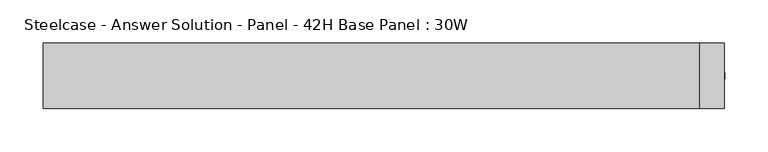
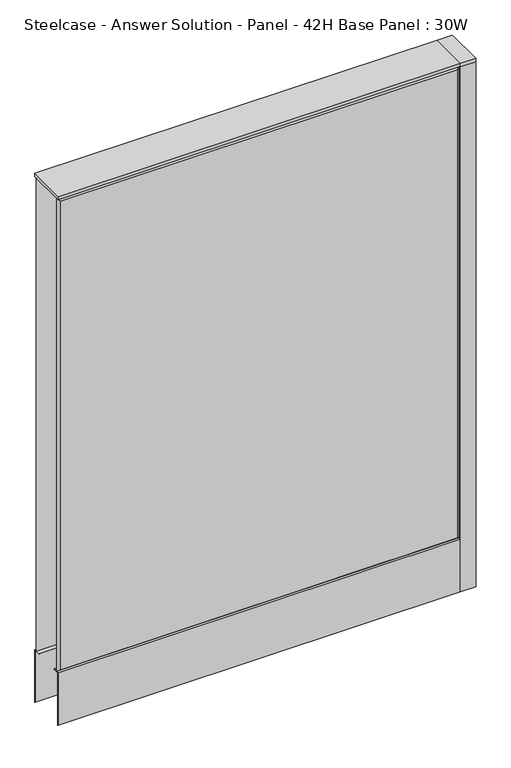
"""IFC4 building model written with IfcOpenShell, lengths in millimetres: furniture geometry, Steelcase - Answer Solution - Panel - 42H Base Panel : 30W."""

from ifc_helpers import new_model, si_unit, point, frame, frame_2d, origin, place, context, project, spatial, polyline, circle_curve, trimmed, segment, composite_curve, outline, extrude, faceted_brep, source, transform, mapped, element, save


def steelcase_answer_solution_panel_42h_base_panel_30w_dea454dc(model_context):
    return source(origin(), model_context, "Body", "SolidModel", [
        extrude(outline(composite_curve([segment(trimmed(circle_curve(frame_2d((395.224, 0.0039657)), 5.08), [point((400.304, 0.0039657))], [point((390.144, 0.0039657))], False, "CARTESIAN"), True, "CONTINUOUS"), segment(trimmed(circle_curve(frame_2d((395.224, 0.0039657)), 5.08), [point((390.144, 0.0039657))], [point((400.304, 0.0039657))], False, "CARTESIAN"), True, "CONTINUOUS")], self_intersect=False)), frame((0.0, 0.0, 5.0799671), z_axis=(0.0, 0.0, 1.0), x_axis=(1.0, 0.0, 0.0)), (0.0, 0.0, 1.0), 10.414),
        extrude(outline(composite_curve([segment(trimmed(circle_curve(frame_2d((395.224, 0.0039657)), 15.24), [point((410.464, 0.0039657))], [point((379.984, 0.0039657))], False, "CARTESIAN"), True, "CONTINUOUS"), segment(trimmed(circle_curve(frame_2d((395.224, 0.0039657)), 15.24), [point((379.984, 0.0039657))], [point((410.464, 0.0039657))], False, "CARTESIAN"), True, "CONTINUOUS")], self_intersect=False)), frame((0.0, 0.0, -3.29e-05), z_axis=(0.0, 0.0, 1.0), x_axis=(1.0, 0.0, 0.0)), (0.0, 0.0, 1.0), 5.08),
        extrude(outline(polyline([(409.575, 38.1039851), (409.575, -38.0960149), (381.0, -38.0960149), (381.0, 38.1039851), (409.575, 38.1039851)])), frame((0.0, 0.0, 1065.8348), z_axis=(0.0, 0.0, 1.0), x_axis=(1.0, 0.0, 0.0)), (0.0, 0.0, 1.0), 7.3151671),
        extrude(outline(polyline([(409.575, 38.1039851), (409.575, -38.0960149), (381.0, -38.0960149), (381.0, 38.1039851), (409.575, 38.1039851)])), frame((0.0, 0.0, 15.4939671), z_axis=(0.0, 0.0, 1.0), x_axis=(1.0, 0.0, 0.0)), (0.0, 0.0, 1.0), 1050.3408329),
        faceted_brep([(-376.174, 38.1635011, 1061.974), (376.174, 38.1635011, 1061.974), (376.174, 38.1635011, 125.476), (-376.174, 38.1635011, 125.476), (-381.0, 33.3375011, 1066.8), (-381.0, 33.3375011, 120.65), (381.0, 33.3375011, 120.65), (381.0, 33.3375011, 1066.8)], [[[0, 1, 2, 3]], [[4, 5, 6, 7]], [[4, 7, 1, 0]], [[7, 6, 2, 1]], [[6, 5, 3, 2]], [[5, 4, 0, 3]]]),
        faceted_brep([(376.174, -38.1635011, 1061.974), (-376.174, -38.1635011, 1061.974), (-376.174, -38.1635011, 125.476), (376.174, -38.1635011, 125.476), (381.0, -33.3375011, 1066.8), (381.0, -33.3375011, 120.65), (-381.0, -33.3375011, 120.65), (-381.0, -33.3375011, 1066.8)], [[[0, 1, 2, 3]], [[4, 5, 6, 7]], [[4, 7, 1, 0]], [[7, 6, 2, 1]], [[6, 5, 3, 2]], [[5, 4, 0, 3]]]),
        extrude(outline(polyline([(381.0, 38.1000194), (381.0, -38.1000194), (-381.0, -38.1000194), (-381.0, 38.1000194), (381.0, 38.1000194)])), frame((0.0, 0.0, 1066.8), z_axis=(0.0, 0.0, 1.0), x_axis=(1.0, 0.0, 0.0)), (0.0, 0.0, 1.0), 6.35),
        extrude(outline(polyline([(25.4000011, 119.8575157), (25.4000011, 120.65), (38.1000194, 120.65), (38.1000194, 15.494), (37.3075215, 15.494), (37.3075215, 119.8575157), (25.4000011, 119.8575157)])), frame((-381.0, 0.0, 0.0), z_axis=(1.0, 0.0, 0.0), x_axis=(0.0, 1.0, 0.0)), (0.0, 0.0, 1.0), 762.0),
        extrude(outline(polyline([(-25.4000011, 119.8575157), (-37.3075215, 119.8575157), (-37.3075215, 15.494), (-38.1000194, 15.494), (-38.1000194, 120.65), (-25.4000011, 120.65), (-25.4000011, 119.8575157)])), frame((-381.0, 0.0, 0.0), z_axis=(1.0, 0.0, 0.0), x_axis=(0.0, 1.0, 0.0)), (0.0, 0.0, 1.0), 762.0),
    ])


if __name__ == "__main__":
    model = new_model("IFC4")
    model_context = context("Model", 3, world=origin())
    ifc_project = project(units=[si_unit("LENGTHUNIT", "METRE", prefix="MILLI")], contexts=[model_context])
    site = spatial("IfcSite", under=ifc_project)
    building = spatial("IfcBuilding", under=site)
    placement = place(None, origin())
    steelcase_answer_solution_panel_42h_base_panel_30w_shape = steelcase_answer_solution_panel_42h_base_panel_30w_dea454dc(model_context)
    element("IfcFurniture", 1, ObjectType="Steelcase - Answer Solution - Panel - 42H Base Panel : 30W", at=placement, inside=building, context=model_context, shape_type="MappedRepresentation", body=[
        mapped(steelcase_answer_solution_panel_42h_base_panel_30w_shape, transform((0.0, 0.0, 0.0), x_axis=(1.0, 0.0, 0.0), y_axis=(0.0, 1.0, 0.0), z_axis=(0.0, 0.0, 1.0))),
    ])
    save(model, "model.ifc")
